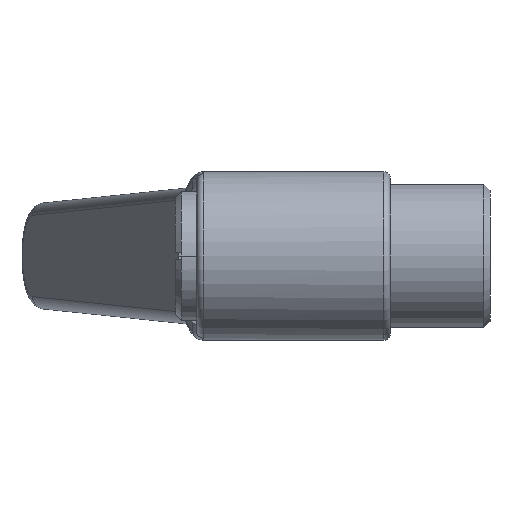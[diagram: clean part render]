
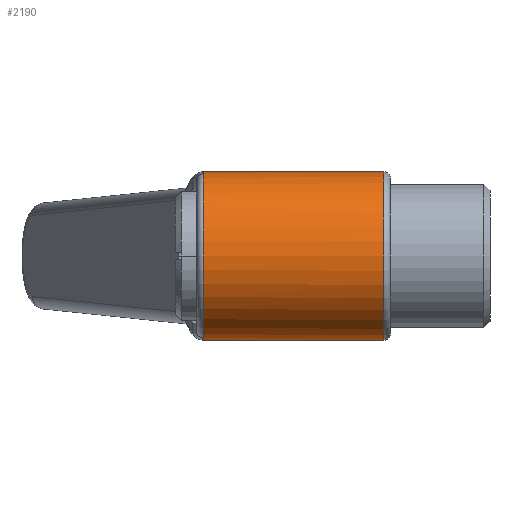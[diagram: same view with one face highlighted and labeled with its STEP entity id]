
A CAD part, left-side view. The second image highlights one B-rep face of the part: STEP entity #2190.
In plain terms, the highlighted cylindrical face has radius 13.5 mm (diameter 27 mm), a partial arc.
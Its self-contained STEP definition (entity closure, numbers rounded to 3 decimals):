
#6 = VECTOR ( 'NONE', #1959, 1000. ) ;
#128 = CARTESIAN_POINT ( 'NONE',  ( -1.882, -0.987, 13.377 ) ) ;
#151 = CIRCLE ( 'NONE', #1963, 13.5 ) ;
#158 = CIRCLE ( 'NONE', #1906, 13.5 ) ;
#170 = DIRECTION ( 'NONE',  ( 0., -1., 0. ) ) ;
#245 = CARTESIAN_POINT ( 'NONE',  ( 0., -30., -13.5 ) ) ;
#273 = B_SPLINE_CURVE_WITH_KNOTS ( 'NONE', 3,
 ( #643, #867, #1300, #128, #1491, #318 ),
 .UNSPECIFIED., .F., .F.,
 ( 4, 2, 4 ),
 ( 0.003, 0.004, 0.006 ),
 .UNSPECIFIED. ) ;
#304 = CARTESIAN_POINT ( 'NONE',  ( 0., 31., 13.5 ) ) ;
#318 = CARTESIAN_POINT ( 'NONE',  ( -2.815, -1., 13.203 ) ) ;
#388 = CYLINDRICAL_SURFACE ( 'NONE', #1652, 13.5 ) ;
#392 = FACE_OUTER_BOUND ( 'NONE', #1223, .T. ) ;
#429 = VECTOR ( 'NONE', #170, 1000. ) ;
#431 = LINE ( 'NONE', #304, #429 ) ;
#490 = CARTESIAN_POINT ( 'NONE',  ( -2.815, -1., -13.203 ) ) ;
#497 = CARTESIAN_POINT ( 'NONE',  ( 0., -30., 0. ) ) ;
#508 = LINE ( 'NONE', #2081, #6 ) ;
#539 = CARTESIAN_POINT ( 'NONE',  ( -2.815, -1., 13.203 ) ) ;
#585 = ORIENTED_EDGE ( 'NONE', *, *, #2377, .T. ) ;
#643 = CARTESIAN_POINT ( 'NONE',  ( 0., -0.838, 13.5 ) ) ;
#664 = CARTESIAN_POINT ( 'NONE',  ( -1.878, -1., -13.403 ) ) ;
#675 = DIRECTION ( 'NONE',  ( 0., 0., 1. ) ) ;
#836 = ORIENTED_EDGE ( 'NONE', *, *, #2372, .T. ) ;
#844 = CARTESIAN_POINT ( 'NONE',  ( 0., -0.838, -13.5 ) ) ;
#867 = CARTESIAN_POINT ( 'NONE',  ( -0.467, -0.892, 13.5 ) ) ;
#877 = DIRECTION ( 'NONE',  ( 0., -1., 0. ) ) ;
#923 = ORIENTED_EDGE ( 'NONE', *, *, #2264, .T. ) ;
#1202 = DIRECTION ( 'NONE',  ( 0., 0., -1. ) ) ;
#1206 = CARTESIAN_POINT ( 'NONE',  ( 0., 31., 0. ) ) ;
#1223 = EDGE_LOOP ( 'NONE', ( #1340, #836, #1856, #1415, #923, #585 ) ) ;
#1300 = CARTESIAN_POINT ( 'NONE',  ( -0.941, -0.933, 13.475 ) ) ;
#1312 = CARTESIAN_POINT ( 'NONE',  ( 0., -0.838, -13.5 ) ) ;
#1335 = DIRECTION ( 'NONE',  ( 0., -1., 0. ) ) ;
#1339 = VERTEX_POINT ( 'NONE', #844 ) ;
#1340 = ORIENTED_EDGE ( 'NONE', *, *, #2157, .F. ) ;
#1415 = ORIENTED_EDGE ( 'NONE', *, *, #2375, .T. ) ;
#1430 = VERTEX_POINT ( 'NONE', #2418 ) ;
#1491 = CARTESIAN_POINT ( 'NONE',  ( -2.35, -1., 13.302 ) ) ;
#1537 = VERTEX_POINT ( 'NONE', #2221 ) ;
#1652 = AXIS2_PLACEMENT_3D ( 'NONE', #1206, #1335, #1202 ) ;
#1679 = VERTEX_POINT ( 'NONE', #245 ) ;
#1856 = ORIENTED_EDGE ( 'NONE', *, *, #2374, .T. ) ;
#1884 = DIRECTION ( 'NONE',  ( 0., 1., 0. ) ) ;
#1906 = AXIS2_PLACEMENT_3D ( 'NONE', #497, #1884, #675 ) ;
#1959 = DIRECTION ( 'NONE',  ( 0., -1., 0. ) ) ;
#1963 = AXIS2_PLACEMENT_3D ( 'NONE', #2049, #877, #2224 ) ;
#1964 = CARTESIAN_POINT ( 'NONE',  ( -2.815, -1., -13.203 ) ) ;
#2049 = CARTESIAN_POINT ( 'NONE',  ( 0., -1., 0. ) ) ;
#2081 = CARTESIAN_POINT ( 'NONE',  ( 0., 31., -13.5 ) ) ;
#2085 = VERTEX_POINT ( 'NONE', #539 ) ;
#2157 = EDGE_CURVE ( 'NONE', #1430, #1537, #431, .T. ) ;
#2164 = VERTEX_POINT ( 'NONE', #1964 ) ;
#2190 = ADVANCED_FACE ( 'NONE', ( #392 ), #388, .T. ) ;
#2221 = CARTESIAN_POINT ( 'NONE',  ( 0., -30., 13.5 ) ) ;
#2224 = DIRECTION ( 'NONE',  ( 0., 0., -1. ) ) ;
#2264 = EDGE_CURVE ( 'NONE', #1339, #1679, #508, .T. ) ;
#2304 = B_SPLINE_CURVE_WITH_KNOTS ( 'NONE', 3,
 ( #490, #664, #2409, #1312 ),
 .UNSPECIFIED., .F., .F.,
 ( 4, 4 ),
 ( 0., 0.003 ),
 .UNSPECIFIED. ) ;
#2372 = EDGE_CURVE ( 'NONE', #1430, #2085, #273, .T. ) ;
#2374 = EDGE_CURVE ( 'NONE', #2085, #2164, #151, .T. ) ;
#2375 = EDGE_CURVE ( 'NONE', #2164, #1339, #2304, .T. ) ;
#2377 = EDGE_CURVE ( 'NONE', #1679, #1537, #158, .T. ) ;
#2409 = CARTESIAN_POINT ( 'NONE',  ( -0.94, -0.947, -13.5 ) ) ;
#2418 = CARTESIAN_POINT ( 'NONE',  ( 0., -0.838, 13.5 ) ) ;
